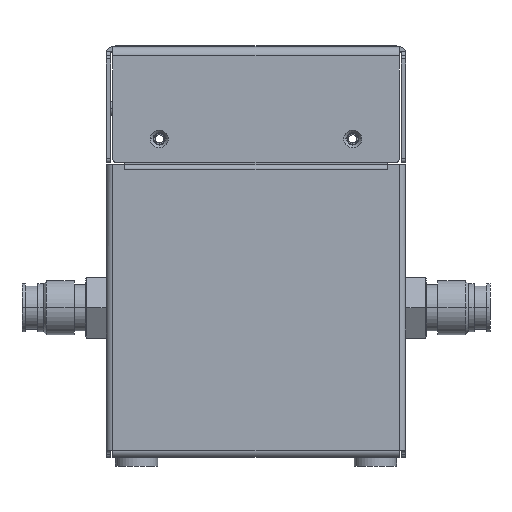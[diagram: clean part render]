
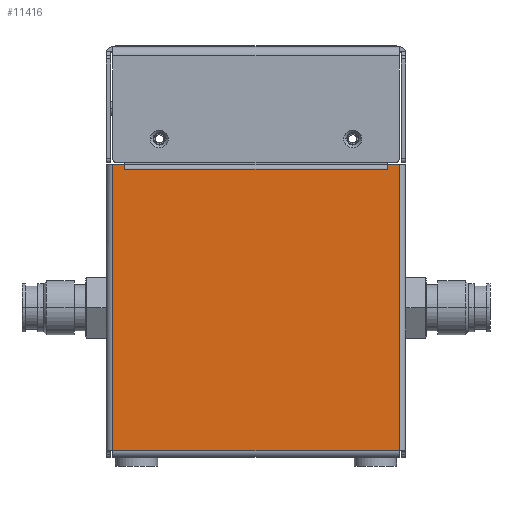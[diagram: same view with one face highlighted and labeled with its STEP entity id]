
A CAD part, front view. The second image highlights one B-rep face of the part: STEP entity #11416.
In plain terms, the highlighted planar face has unit normal (0, -1, 0) as drawn and (-1, 0, 0) by its records, which use the part's own axes.
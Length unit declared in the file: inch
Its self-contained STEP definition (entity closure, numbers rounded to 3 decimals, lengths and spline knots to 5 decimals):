
#7876=DIRECTION('',(0.,-1.,0.));
#7877=VECTOR('',#7876,2.959);
#7878=CARTESIAN_POINT('',(-0.047,1.513,-1.48));
#7879=LINE('',#7878,#7877);
#7880=DIRECTION('',(0.,1.,0.));
#7881=VECTOR('',#7880,0.047);
#7882=CARTESIAN_POINT('',(-0.047,1.466,1.355));
#7883=LINE('',#7882,#7881);
#7884=DIRECTION('',(0.,1.,0.));
#7885=VECTOR('',#7884,2.959);
#7886=CARTESIAN_POINT('',(-0.047,-1.446,1.48));
#7887=LINE('',#7886,#7885);
#9203=DIRECTION('',(0.,0.,-1.));
#9204=VECTOR('',#9203,0.125);
#9205=CARTESIAN_POINT('',(-0.047,1.513,1.48));
#9206=LINE('',#9205,#9204);
#9228=DIRECTION('',(0.,0.,-1.));
#9229=VECTOR('',#9228,2.71);
#9230=CARTESIAN_POINT('',(-0.047,1.466,1.355));
#9231=LINE('',#9230,#9229);
#9375=DIRECTION('',(0.,1.,0.));
#9376=VECTOR('',#9375,0.047);
#9377=CARTESIAN_POINT('',(-0.047,1.466,-1.355));
#9378=LINE('',#9377,#9376);
#9383=DIRECTION('',(0.,0.,-1.));
#9384=VECTOR('',#9383,0.125);
#9385=CARTESIAN_POINT('',(-0.047,1.513,-1.355));
#9386=LINE('',#9385,#9384);
#9421=DIRECTION('',(0.,0.,1.));
#9422=VECTOR('',#9421,2.96);
#9423=CARTESIAN_POINT('',(-0.047,-1.446,-1.48));
#9424=LINE('',#9423,#9422);
#10409=CARTESIAN_POINT('',(-0.047,1.513,-1.48));
#10410=VERTEX_POINT('',#10409);
#10415=CARTESIAN_POINT('',(-0.047,-1.446,-1.48));
#10416=VERTEX_POINT('',#10415);
#10457=CARTESIAN_POINT('',(-0.047,-1.446,1.48));
#10458=CARTESIAN_POINT('',(-0.047,1.513,1.48));
#10459=VERTEX_POINT('',#10457);
#10460=VERTEX_POINT('',#10458);
#10461=CARTESIAN_POINT('',(-0.047,1.513,-1.355));
#10462=VERTEX_POINT('',#10461);
#10463=CARTESIAN_POINT('',(-0.047,1.466,-1.355));
#10464=VERTEX_POINT('',#10463);
#10465=CARTESIAN_POINT('',(-0.047,1.466,1.355));
#10466=VERTEX_POINT('',#10465);
#10467=CARTESIAN_POINT('',(-0.047,1.513,1.355));
#10468=VERTEX_POINT('',#10467);
#11394=CARTESIAN_POINT('',(-0.047,-1.513,1.48));
#11395=DIRECTION('',(1.,0.,0.));
#11396=DIRECTION('',(0.,0.,-1.));
#11397=AXIS2_PLACEMENT_3D('',#11394,#11395,#11396);
#11398=PLANE('',#11397);
#11400=ORIENTED_EDGE('',*,*,#11399,.F.);
#11402=ORIENTED_EDGE('',*,*,#11401,.F.);
#11403=ORIENTED_EDGE('',*,*,#11388,.F.);
#11405=ORIENTED_EDGE('',*,*,#11404,.F.);
#11407=ORIENTED_EDGE('',*,*,#11406,.F.);
#11409=ORIENTED_EDGE('',*,*,#11408,.F.);
#11411=ORIENTED_EDGE('',*,*,#11410,.T.);
#11413=ORIENTED_EDGE('',*,*,#11412,.F.);
#11414=EDGE_LOOP('',(#11400,#11402,#11403,#11405,#11407,#11409,#11411,#11413));
#11415=FACE_OUTER_BOUND('',#11414,.F.);
#11416=ADVANCED_FACE('',(#11415),#11398,.F.);
#11388=EDGE_CURVE('',#10410,#10416,#7879,.T.);
#11399=EDGE_CURVE('',#10459,#10460,#7887,.T.);
#11401=EDGE_CURVE('',#10416,#10459,#9424,.T.);
#11404=EDGE_CURVE('',#10462,#10410,#9386,.T.);
#11406=EDGE_CURVE('',#10464,#10462,#9378,.T.);
#11408=EDGE_CURVE('',#10466,#10464,#9231,.T.);
#11410=EDGE_CURVE('',#10466,#10468,#7883,.T.);
#11412=EDGE_CURVE('',#10460,#10468,#9206,.T.);
